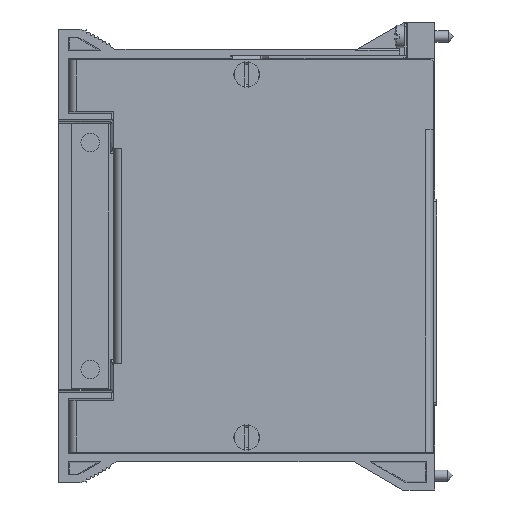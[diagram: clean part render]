
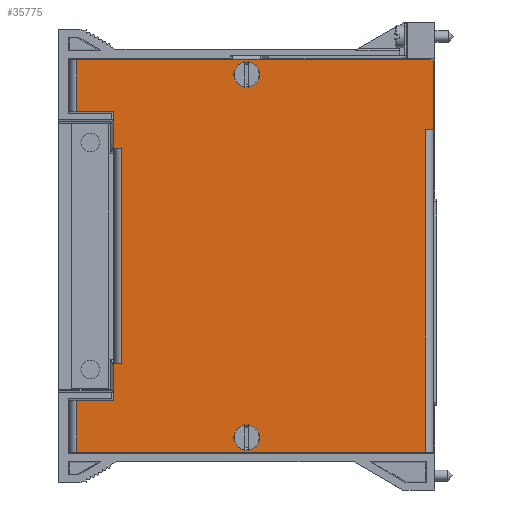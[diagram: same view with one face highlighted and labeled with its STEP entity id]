
A CAD part, top view. The second image highlights one B-rep face of the part: STEP entity #35775.
In plain terms, the highlighted planar face has unit normal (0, 0, 1).
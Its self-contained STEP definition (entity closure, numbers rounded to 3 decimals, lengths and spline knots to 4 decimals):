
#4092=DIRECTION('',(-0.707,0.707,0.));
#4093=VECTOR('',#4092,0.0283);
#4094=CARTESIAN_POINT('',(-0.0125,1.71,0.384));
#4095=LINE('',#4094,#4093);
#4104=DIRECTION('',(0.,1.,0.));
#4105=VECTOR('',#4104,0.3225);
#4106=CARTESIAN_POINT('',(-2.8275,-1.2725,0.384));
#4107=LINE('',#4106,#4105);
#4108=DIRECTION('',(-1.,0.,0.));
#4109=VECTOR('',#4108,0.067);
#4110=CARTESIAN_POINT('',(-2.7605,-0.95,0.384));
#4111=LINE('',#4110,#4109);
#4112=DIRECTION('',(-1.,0.,0.));
#4113=VECTOR('',#4112,0.067);
#4114=CARTESIAN_POINT('',(-2.7605,0.95,0.384));
#4115=LINE('',#4114,#4113);
#4116=DIRECTION('',(0.,1.,0.));
#4117=VECTOR('',#4116,0.3225);
#4118=CARTESIAN_POINT('',(-2.8275,0.95,0.384));
#4119=LINE('',#4118,#4117);
#4120=DIRECTION('',(1.,0.,0.));
#4121=VECTOR('',#4120,0.328);
#4122=CARTESIAN_POINT('',(-3.1555,1.2725,0.384));
#4123=LINE('',#4122,#4121);
#4124=DIRECTION('',(-1.,0.,0.));
#4125=VECTOR('',#4124,3.123);
#4126=CARTESIAN_POINT('',(-0.0325,1.73,0.384));
#4127=LINE('',#4126,#4125);
#4128=DIRECTION('',(0.,1.,0.));
#4129=VECTOR('',#4128,0.595);
#4130=CARTESIAN_POINT('',(-0.0125,1.115,0.384));
#4131=LINE('',#4130,#4129);
#4132=DIRECTION('',(1.,0.,0.));
#4133=VECTOR('',#4132,0.067);
#4134=CARTESIAN_POINT('',(-0.0795,1.115,0.384));
#4135=LINE('',#4134,#4133);
#4136=DIRECTION('',(1.,0.,0.));
#4137=VECTOR('',#4136,3.076);
#4138=CARTESIAN_POINT('',(-3.1555,-1.73,0.384));
#4139=LINE('',#4138,#4137);
#4140=DIRECTION('',(1.,0.,0.));
#4141=VECTOR('',#4140,0.328);
#4142=CARTESIAN_POINT('',(-3.1555,-1.2725,0.384));
#4143=LINE('',#4142,#4141);
#4144=CARTESIAN_POINT('',(-1.6563,-1.6,0.384));
#4145=DIRECTION('',(0.,0.,-1.));
#4146=DIRECTION('',(-0.159,0.987,0.));
#4147=AXIS2_PLACEMENT_3D('',#4144,#4145,#4146);
#4149=CARTESIAN_POINT('',(-1.6563,-1.6,0.384));
#4150=DIRECTION('',(0.,0.,-1.));
#4151=DIRECTION('',(0.159,-0.987,0.));
#4152=AXIS2_PLACEMENT_3D('',#4149,#4150,#4151);
#4154=CARTESIAN_POINT('',(-1.6563,1.6,0.384));
#4155=DIRECTION('',(0.,0.,1.));
#4156=DIRECTION('',(0.159,0.987,0.));
#4157=AXIS2_PLACEMENT_3D('',#4154,#4155,#4156);
#4159=CARTESIAN_POINT('',(-1.6563,1.6,0.384));
#4160=DIRECTION('',(0.,0.,1.));
#4161=DIRECTION('',(-0.159,-0.987,0.));
#4162=AXIS2_PLACEMENT_3D('',#4159,#4160,#4161);
#4638=DIRECTION('',(0.,1.,0.));
#4639=VECTOR('',#4638,0.4575);
#4640=CARTESIAN_POINT('',(-3.1555,1.2725,0.384));
#4641=LINE('',#4640,#4639);
#4743=DIRECTION('',(0.,-1.,0.));
#4744=VECTOR('',#4743,1.9);
#4745=CARTESIAN_POINT('',(-2.7605,0.95,0.384));
#4746=LINE('',#4745,#4744);
#14185=DIRECTION('',(0.,1.,0.));
#14186=VECTOR('',#14185,0.4575);
#14187=CARTESIAN_POINT('',(-3.1555,-1.73,0.384));
#14188=LINE('',#14187,#14186);
#14322=DIRECTION('',(0.,-1.,0.));
#14323=VECTOR('',#14322,2.845);
#14324=CARTESIAN_POINT('',(-0.0795,1.115,0.384));
#14325=LINE('',#14324,#14323);
#16352=CARTESIAN_POINT('',(-1.6738,-1.4914,0.384));
#16354=CARTESIAN_POINT('',(-1.6388,-1.4914,0.384));
#16379=CARTESIAN_POINT('',(-1.6388,-1.7086,0.384));
#16381=CARTESIAN_POINT('',(-1.6738,-1.7086,0.384));
#16405=CARTESIAN_POINT('',(-1.6563,-1.6,0.384));
#16406=DIRECTION('',(0.,0.,-1.));
#16407=DIRECTION('',(0.159,0.987,0.));
#16408=AXIS2_PLACEMENT_3D('',#16405,#16406,#16407);
#16426=CARTESIAN_POINT('',(-1.6563,-1.6,0.384));
#16427=DIRECTION('',(0.,0.,-1.));
#16428=DIRECTION('',(-0.159,-0.987,0.));
#16429=AXIS2_PLACEMENT_3D('',#16426,#16427,#16428);
#16445=CARTESIAN_POINT('',(-1.6738,1.7086,0.384));
#16457=CARTESIAN_POINT('',(-1.6388,1.7086,0.384));
#16484=CARTESIAN_POINT('',(-1.6563,1.6,0.384));
#16485=DIRECTION('',(0.,0.,-1.));
#16486=DIRECTION('',(0.159,0.987,0.));
#16487=AXIS2_PLACEMENT_3D('',#16484,#16485,#16486);
#16498=CARTESIAN_POINT('',(-1.6388,1.4914,0.384));
#16510=CARTESIAN_POINT('',(-1.6738,1.4914,0.384));
#16524=CARTESIAN_POINT('',(-1.6563,1.6,0.384));
#16525=DIRECTION('',(0.,0.,-1.));
#16526=DIRECTION('',(-0.159,-0.987,0.));
#16527=AXIS2_PLACEMENT_3D('',#16524,#16525,#16526);
#32226=CARTESIAN_POINT('',(-3.1555,1.73,0.384));
#32228=VERTEX_POINT('',#32226);
#32230=CARTESIAN_POINT('',(-3.1555,-1.73,0.384));
#32232=VERTEX_POINT('',#32230);
#32241=CARTESIAN_POINT('',(-3.1555,-1.2725,0.384));
#32242=CARTESIAN_POINT('',(-2.8275,-1.2725,0.384));
#32243=VERTEX_POINT('',#32241);
#32244=VERTEX_POINT('',#32242);
#32245=CARTESIAN_POINT('',(-3.1555,1.2725,0.384));
#32246=CARTESIAN_POINT('',(-2.8275,1.2725,0.384));
#32247=VERTEX_POINT('',#32245);
#32248=VERTEX_POINT('',#32246);
#32285=CARTESIAN_POINT('',(-0.0795,1.115,0.384));
#32286=CARTESIAN_POINT('',(-0.0125,1.115,0.384));
#32287=VERTEX_POINT('',#32285);
#32288=VERTEX_POINT('',#32286);
#32297=CARTESIAN_POINT('',(-0.0795,-1.73,0.384));
#32298=VERTEX_POINT('',#32297);
#32309=CARTESIAN_POINT('',(-2.7605,0.95,0.384));
#32310=CARTESIAN_POINT('',(-2.8275,0.95,0.384));
#32311=VERTEX_POINT('',#32309);
#32312=VERTEX_POINT('',#32310);
#32317=CARTESIAN_POINT('',(-2.7605,-0.95,0.384));
#32318=CARTESIAN_POINT('',(-2.8275,-0.95,0.384));
#32319=VERTEX_POINT('',#32317);
#32320=VERTEX_POINT('',#32318);
#32397=CARTESIAN_POINT('',(-0.0125,1.71,0.384));
#32398=CARTESIAN_POINT('',(-0.0325,1.73,0.384));
#32399=VERTEX_POINT('',#32397);
#32400=VERTEX_POINT('',#32398);
#32487=VERTEX_POINT('',#16379);
#32488=VERTEX_POINT('',#16381);
#32493=VERTEX_POINT('',#16354);
#32494=VERTEX_POINT('',#16352);
#32531=VERTEX_POINT('',#16457);
#32532=VERTEX_POINT('',#16445);
#32537=VERTEX_POINT('',#16498);
#32538=VERTEX_POINT('',#16510);
#35722=CARTESIAN_POINT('',(-3.2225,0.,0.384));
#35723=DIRECTION('',(0.,0.,1.));
#35724=DIRECTION('',(1.,0.,0.));
#35725=AXIS2_PLACEMENT_3D('',#35722,#35723,#35724);
#35726=PLANE('',#35725);
#35728=ORIENTED_EDGE('',*,*,#35727,.T.);
#35730=ORIENTED_EDGE('',*,*,#35729,.F.);
#35732=ORIENTED_EDGE('',*,*,#35731,.F.);
#35734=ORIENTED_EDGE('',*,*,#35733,.T.);
#35736=ORIENTED_EDGE('',*,*,#35735,.T.);
#35738=ORIENTED_EDGE('',*,*,#35737,.F.);
#35740=ORIENTED_EDGE('',*,*,#35739,.T.);
#35741=ORIENTED_EDGE('',*,*,#35668,.F.);
#35742=ORIENTED_EDGE('',*,*,#35687,.F.);
#35743=ORIENTED_EDGE('',*,*,#35702,.F.);
#35744=ORIENTED_EDGE('',*,*,#35713,.F.);
#35746=ORIENTED_EDGE('',*,*,#35745,.T.);
#35748=ORIENTED_EDGE('',*,*,#35747,.F.);
#35750=ORIENTED_EDGE('',*,*,#35749,.T.);
#35752=ORIENTED_EDGE('',*,*,#35751,.T.);
#35753=EDGE_LOOP('',(#35728,#35730,#35732,#35734,#35736,#35738,#35740,#35741,
#35742,#35743,#35744,#35746,#35748,#35750,#35752));
#35754=FACE_OUTER_BOUND('',#35753,.F.);
#35756=ORIENTED_EDGE('',*,*,#35755,.F.);
#35758=ORIENTED_EDGE('',*,*,#35757,.F.);
#35760=ORIENTED_EDGE('',*,*,#35759,.F.);
#35762=ORIENTED_EDGE('',*,*,#35761,.F.);
#35763=EDGE_LOOP('',(#35756,#35758,#35760,#35762));
#35764=FACE_BOUND('',#35763,.F.);
#35766=ORIENTED_EDGE('',*,*,#35765,.T.);
#35768=ORIENTED_EDGE('',*,*,#35767,.F.);
#35770=ORIENTED_EDGE('',*,*,#35769,.T.);
#35772=ORIENTED_EDGE('',*,*,#35771,.F.);
#35773=EDGE_LOOP('',(#35766,#35768,#35770,#35772));
#35774=FACE_BOUND('',#35773,.F.);
#35775=ADVANCED_FACE('',(#35754,#35764,#35774),#35726,.T.);
#4148=CIRCLE('',#4147,0.11);
#4153=CIRCLE('',#4152,0.11);
#4158=CIRCLE('',#4157,0.11);
#4163=CIRCLE('',#4162,0.11);
#16409=CIRCLE('',#16408,0.11);
#16430=CIRCLE('',#16429,0.11);
#16488=CIRCLE('',#16487,0.11);
#16528=CIRCLE('',#16527,0.11);
#35668=EDGE_CURVE('',#32400,#32228,#4127,.T.);
#35687=EDGE_CURVE('',#32399,#32400,#4095,.T.);
#35702=EDGE_CURVE('',#32288,#32399,#4131,.T.);
#35713=EDGE_CURVE('',#32287,#32288,#4135,.T.);
#35727=EDGE_CURVE('',#32244,#32320,#4107,.T.);
#35729=EDGE_CURVE('',#32319,#32320,#4111,.T.);
#35731=EDGE_CURVE('',#32311,#32319,#4746,.T.);
#35733=EDGE_CURVE('',#32311,#32312,#4115,.T.);
#35735=EDGE_CURVE('',#32312,#32248,#4119,.T.);
#35737=EDGE_CURVE('',#32247,#32248,#4123,.T.);
#35739=EDGE_CURVE('',#32247,#32228,#4641,.T.);
#35745=EDGE_CURVE('',#32287,#32298,#14325,.T.);
#35747=EDGE_CURVE('',#32232,#32298,#4139,.T.);
#35749=EDGE_CURVE('',#32232,#32243,#14188,.T.);
#35751=EDGE_CURVE('',#32243,#32244,#4143,.T.);
#35755=EDGE_CURVE('',#32494,#32493,#4148,.T.);
#35757=EDGE_CURVE('',#32488,#32494,#16430,.T.);
#35759=EDGE_CURVE('',#32487,#32488,#4153,.T.);
#35761=EDGE_CURVE('',#32493,#32487,#16409,.T.);
#35765=EDGE_CURVE('',#32531,#32532,#4158,.T.);
#35767=EDGE_CURVE('',#32538,#32532,#16528,.T.);
#35769=EDGE_CURVE('',#32538,#32537,#4163,.T.);
#35771=EDGE_CURVE('',#32531,#32537,#16488,.T.);
